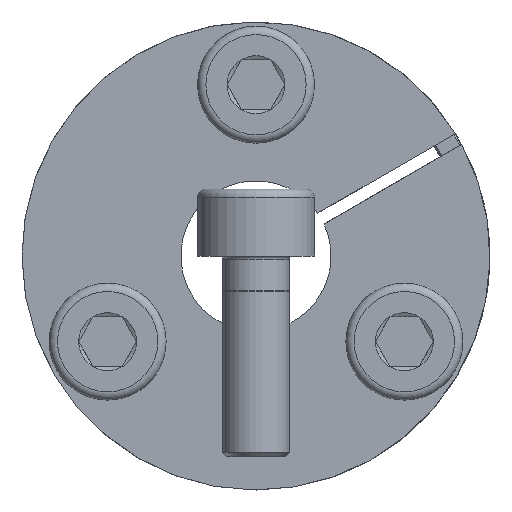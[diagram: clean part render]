
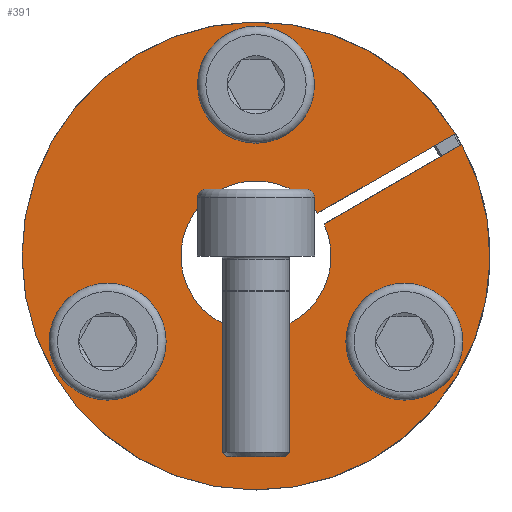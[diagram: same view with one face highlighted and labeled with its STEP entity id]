
A CAD part, front view. The second image highlights one B-rep face of the part: STEP entity #391.
In plain terms, the highlighted planar face has unit normal (0, -1, 0).
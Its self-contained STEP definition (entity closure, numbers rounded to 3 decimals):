
#391 = ADVANCED_FACE( '', ( #656, #657, #658, #659 ), #660, .F. );
#656 = FACE_BOUND( '', #898, .T. );
#657 = FACE_BOUND( '', #899, .T. );
#658 = FACE_BOUND( '', #900, .T. );
#659 = FACE_OUTER_BOUND( '', #901, .T. );
#660 = PLANE( '', #902 );
#898 = EDGE_LOOP( '', ( #1249 ) );
#899 = EDGE_LOOP( '', ( #1250 ) );
#900 = EDGE_LOOP( '', ( #1251 ) );
#901 = EDGE_LOOP( '', ( #1252, #1253, #1254, #1255 ) );
#902 = AXIS2_PLACEMENT_3D( '', #1256, #1257, #1258 );
#1249 = ORIENTED_EDGE( '', *, *, #1767, .T. );
#1250 = ORIENTED_EDGE( '', *, *, #1768, .T. );
#1251 = ORIENTED_EDGE( '', *, *, #1761, .T. );
#1252 = ORIENTED_EDGE( '', *, *, #1756, .T. );
#1253 = ORIENTED_EDGE( '', *, *, #1762, .T. );
#1254 = ORIENTED_EDGE( '', *, *, #1733, .T. );
#1255 = ORIENTED_EDGE( '', *, *, #1724, .F. );
#1256 = CARTESIAN_POINT( '', ( 0., 0., 14. ) );
#1257 = DIRECTION( '', ( 0., 1., 0. ) );
#1258 = DIRECTION( '', ( 0., 0., 1. ) );
#1724 = EDGE_CURVE( '', #1910, #1906, #1912, .T. );
#1733 = EDGE_CURVE( '', #1929, #1906, #1930, .T. );
#1756 = EDGE_CURVE( '', #1910, #1965, #1967, .T. );
#1761 = EDGE_CURVE( '', #1973, #1973, #1974, .T. );
#1762 = EDGE_CURVE( '', #1965, #1929, #1975, .T. );
#1767 = EDGE_CURVE( '', #1983, #1983, #1984, .T. );
#1768 = EDGE_CURVE( '', #1985, #1985, #1986, .T. );
#1906 = VERTEX_POINT( '', #2109 );
#1910 = VERTEX_POINT( '', #2114 );
#1912 = CIRCLE( '', #2117, 4.5 );
#1929 = VERTEX_POINT( '', #2142 );
#1930 = LINE( '', #2143, #2144 );
#1965 = VERTEX_POINT( '', #2208 );
#1967 = LINE( '', #2211, #2212 );
#1973 = VERTEX_POINT( '', #2218 );
#1974 = CIRCLE( '', #2219, 2. );
#1975 = CIRCLE( '', #2220, 14. );
#1983 = VERTEX_POINT( '', #2228 );
#1984 = CIRCLE( '', #2229, 2. );
#1985 = VERTEX_POINT( '', #2230 );
#1986 = CIRCLE( '', #2231, 2. );
#2109 = CARTESIAN_POINT( '', ( 4.071, 0., 1.917 ) );
#2114 = CARTESIAN_POINT( '', ( 3.696, 0., 2.567 ) );
#2117 = AXIS2_PLACEMENT_3D( '', #2458, #2459, #2460 );
#2142 = CARTESIAN_POINT( '', ( 12.308, 0., 6.673 ) );
#2143 = CARTESIAN_POINT( '', ( 12.312, 0., 6.675 ) );
#2144 = VECTOR( '', #2475, 1000. );
#2208 = CARTESIAN_POINT( '', ( 11.933, 0., 7.322 ) );
#2211 = CARTESIAN_POINT( '', ( 3.696, 0., 2.567 ) );
#2212 = VECTOR( '', #2500, 1000. );
#2218 = CARTESIAN_POINT( '', ( -9.877, 0., -3.393 ) );
#2219 = AXIS2_PLACEMENT_3D( '', #2513, #2514, #2515 );
#2220 = AXIS2_PLACEMENT_3D( '', #2516, #2517, #2518 );
#2228 = CARTESIAN_POINT( '', ( 2., 0., 10.25 ) );
#2229 = AXIS2_PLACEMENT_3D( '', #2531, #2532, #2533 );
#2230 = CARTESIAN_POINT( '', ( 7.877, 0., -6.857 ) );
#2231 = AXIS2_PLACEMENT_3D( '', #2534, #2535, #2536 );
#2458 = CARTESIAN_POINT( '', ( 0., 0., 0. ) );
#2459 = DIRECTION( '', ( 0., -1., 0. ) );
#2460 = DIRECTION( '', ( 0., 0., -1. ) );
#2475 = DIRECTION( '', ( -0.866, 0., -0.5 ) );
#2500 = DIRECTION( '', ( 0.866, 0., 0.5 ) );
#2513 = CARTESIAN_POINT( '', ( -8.877, 0., -5.125 ) );
#2514 = DIRECTION( '', ( 0., 1., 0. ) );
#2515 = DIRECTION( '', ( -0.5, 0., 0.866 ) );
#2516 = CARTESIAN_POINT( '', ( 0., 0., 0. ) );
#2517 = DIRECTION( '', ( 0., -1., 0. ) );
#2518 = DIRECTION( '', ( 0., 0., -1. ) );
#2531 = CARTESIAN_POINT( '', ( 0., 0., 10.25 ) );
#2532 = DIRECTION( '', ( 0., 1., 0. ) );
#2533 = DIRECTION( '', ( 1., 0., 0. ) );
#2534 = CARTESIAN_POINT( '', ( 8.877, 0., -5.125 ) );
#2535 = DIRECTION( '', ( 0., 1., 0. ) );
#2536 = DIRECTION( '', ( -0.5, 0., -0.866 ) );
